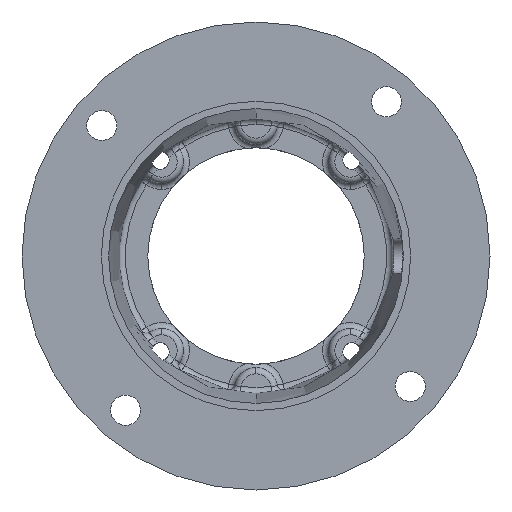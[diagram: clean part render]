
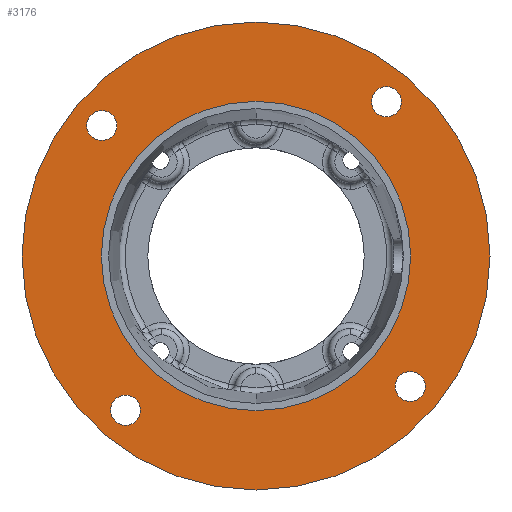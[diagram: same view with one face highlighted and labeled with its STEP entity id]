
A CAD part, front view. The second image highlights one B-rep face of the part: STEP entity #3176.
In plain terms, the highlighted planar face has unit normal (0, -1, 0).
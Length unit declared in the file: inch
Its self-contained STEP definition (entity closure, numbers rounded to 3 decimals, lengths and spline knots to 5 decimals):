
#32 = EDGE_LOOP ( 'NONE', ( #3851, #2686 ) ) ;
#108 = VERTEX_POINT ( 'NONE', #631 ) ;
#154 = CARTESIAN_POINT ( 'NONE',  ( 1.89861, 0.189, 2.4635 ) ) ;
#212 = CARTESIAN_POINT ( 'NONE',  ( 0., 0.189, 0. ) ) ;
#281 = EDGE_CURVE ( 'NONE', #4471, #3189, #5895, .T. ) ;
#403 = AXIS2_PLACEMENT_3D ( 'NONE', #6517, #2933, #7135 ) ;
#457 = AXIS2_PLACEMENT_3D ( 'NONE', #2859, #7059, #3448 ) ;
#527 = CARTESIAN_POINT ( 'NONE',  ( 0., 0.189, 2.2505 ) ) ;
#631 = CARTESIAN_POINT ( 'NONE',  ( -1.89861, 0.189, -2.4635 ) ) ;
#639 = CARTESIAN_POINT ( 'NONE',  ( 1.89861, 0.189, 2.026 ) ) ;
#722 = CIRCLE ( 'NONE', #2219, 0.21875 ) ;
#745 = DIRECTION ( 'NONE',  ( 0., -1., 0. ) ) ;
#764 = EDGE_CURVE ( 'NONE', #1095, #108, #7209, .T. ) ;
#825 = DIRECTION ( 'NONE',  ( 0., -1., 0. ) ) ;
#1052 = ORIENTED_EDGE ( 'NONE', *, *, #4712, .F. ) ;
#1095 = VERTEX_POINT ( 'NONE', #5407 ) ;
#1132 = AXIS2_PLACEMENT_3D ( 'NONE', #1982, #6172, #2589 ) ;
#1138 = EDGE_LOOP ( 'NONE', ( #3372, #7671 ) ) ;
#1238 = CARTESIAN_POINT ( 'NONE',  ( -2.24475, 0.189, 1.67986 ) ) ;
#1311 = EDGE_CURVE ( 'NONE', #1711, #5734, #722, .T. ) ;
#1411 = ORIENTED_EDGE ( 'NONE', *, *, #5629, .F. ) ;
#1427 = CARTESIAN_POINT ( 'NONE',  ( 2.24475, 0.189, -1.67986 ) ) ;
#1507 = VERTEX_POINT ( 'NONE', #639 ) ;
#1584 = CARTESIAN_POINT ( 'NONE',  ( -1.89861, 0.189, -2.24475 ) ) ;
#1631 = CIRCLE ( 'NONE', #403, 0.21875 ) ;
#1635 = CIRCLE ( 'NONE', #4992, 3.405 ) ;
#1711 = VERTEX_POINT ( 'NONE', #2134 ) ;
#1782 = CARTESIAN_POINT ( 'NONE',  ( 0., 0.189, 3.405 ) ) ;
#1875 = DIRECTION ( 'NONE',  ( 0., -1., 0. ) ) ;
#1933 = ORIENTED_EDGE ( 'NONE', *, *, #764, .F. ) ;
#1959 = DIRECTION ( 'NONE',  ( 0., -1., 0. ) ) ;
#1982 = CARTESIAN_POINT ( 'NONE',  ( 2.24475, 0.189, -1.89861 ) ) ;
#1996 = EDGE_LOOP ( 'NONE', ( #5848, #4154 ) ) ;
#2134 = CARTESIAN_POINT ( 'NONE',  ( -2.24475, 0.189, 2.11736 ) ) ;
#2183 = DIRECTION ( 'NONE',  ( 0., 0., -1. ) ) ;
#2219 = AXIS2_PLACEMENT_3D ( 'NONE', #3080, #7295, #3677 ) ;
#2351 = EDGE_CURVE ( 'NONE', #1507, #7196, #1631, .T. ) ;
#2363 = FACE_OUTER_BOUND ( 'NONE', #32, .T. ) ;
#2364 = CARTESIAN_POINT ( 'NONE',  ( 0., 0.189, 0. ) ) ;
#2460 = CIRCLE ( 'NONE', #7674, 0.21875 ) ;
#2552 = EDGE_CURVE ( 'NONE', #108, #1095, #2460, .T. ) ;
#2589 = DIRECTION ( 'NONE',  ( 0., 0., -1. ) ) ;
#2591 = CARTESIAN_POINT ( 'NONE',  ( 2.24475, 0.189, -2.11736 ) ) ;
#2605 = CIRCLE ( 'NONE', #2822, 2.2505 ) ;
#2686 = ORIENTED_EDGE ( 'NONE', *, *, #6725, .T. ) ;
#2798 = EDGE_LOOP ( 'NONE', ( #1411, #1052 ) ) ;
#2822 = AXIS2_PLACEMENT_3D ( 'NONE', #7027, #3417, #7641 ) ;
#2859 = CARTESIAN_POINT ( 'NONE',  ( 0., 0.189, 0. ) ) ;
#2878 = DIRECTION ( 'NONE',  ( 0., -1., 0. ) ) ;
#2933 = DIRECTION ( 'NONE',  ( 0., -1., 0. ) ) ;
#2967 = DIRECTION ( 'NONE',  ( 0., 0., -1. ) ) ;
#3075 = CIRCLE ( 'NONE', #4294, 0.21875 ) ;
#3080 = CARTESIAN_POINT ( 'NONE',  ( -2.24475, 0.189, 1.89861 ) ) ;
#3176 = ADVANCED_FACE ( 'NONE', ( #4162, #7362, #7162, #5558, #3965, #2363 ), #3815, .T. ) ;
#3189 = VERTEX_POINT ( 'NONE', #1427 ) ;
#3226 = CIRCLE ( 'NONE', #457, 3.405 ) ;
#3318 = AXIS2_PLACEMENT_3D ( 'NONE', #1584, #5791, #2183 ) ;
#3332 = CARTESIAN_POINT ( 'NONE',  ( 2.24475, 0.189, -1.89861 ) ) ;
#3372 = ORIENTED_EDGE ( 'NONE', *, *, #281, .F. ) ;
#3417 = DIRECTION ( 'NONE',  ( 0., -1., 0. ) ) ;
#3433 = CIRCLE ( 'NONE', #5591, 2.2505 ) ;
#3448 = DIRECTION ( 'NONE',  ( 0., 0., -1. ) ) ;
#3677 = DIRECTION ( 'NONE',  ( 0., 0., -1. ) ) ;
#3717 = AXIS2_PLACEMENT_3D ( 'NONE', #212, #825, #5022 ) ;
#3805 = EDGE_LOOP ( 'NONE', ( #6896, #5625 ) ) ;
#3815 = PLANE ( 'NONE',  #3717 ) ;
#3851 = ORIENTED_EDGE ( 'NONE', *, *, #6036, .T. ) ;
#3944 = DIRECTION ( 'NONE',  ( 0., 0., -1. ) ) ;
#3965 = FACE_BOUND ( 'NONE', #2798, .T. ) ;
#4154 = ORIENTED_EDGE ( 'NONE', *, *, #1311, .F. ) ;
#4162 = FACE_BOUND ( 'NONE', #3805, .T. ) ;
#4294 = AXIS2_PLACEMENT_3D ( 'NONE', #5472, #1875, #6077 ) ;
#4352 = CARTESIAN_POINT ( 'NONE',  ( 0., 0.189, 0. ) ) ;
#4471 = VERTEX_POINT ( 'NONE', #2591 ) ;
#4558 = CIRCLE ( 'NONE', #1132, 0.21875 ) ;
#4614 = CARTESIAN_POINT ( 'NONE',  ( 0., 0.189, -3.405 ) ) ;
#4712 = EDGE_CURVE ( 'NONE', #6992, #5108, #2605, .T. ) ;
#4833 = AXIS2_PLACEMENT_3D ( 'NONE', #3332, #7551, #3944 ) ;
#4946 = DIRECTION ( 'NONE',  ( 0., 0., -1. ) ) ;
#4957 = CARTESIAN_POINT ( 'NONE',  ( 0., 0.189, -2.2505 ) ) ;
#4992 = AXIS2_PLACEMENT_3D ( 'NONE', #4352, #745, #4946 ) ;
#5014 = EDGE_CURVE ( 'NONE', #5734, #1711, #3075, .T. ) ;
#5022 = DIRECTION ( 'NONE',  ( 0., 0., -1. ) ) ;
#5108 = VERTEX_POINT ( 'NONE', #4957 ) ;
#5304 = VERTEX_POINT ( 'NONE', #4614 ) ;
#5407 = CARTESIAN_POINT ( 'NONE',  ( -1.89861, 0.189, -2.026 ) ) ;
#5472 = CARTESIAN_POINT ( 'NONE',  ( -2.24475, 0.189, 1.89861 ) ) ;
#5556 = CARTESIAN_POINT ( 'NONE',  ( -1.89861, 0.189, -2.24475 ) ) ;
#5558 = FACE_BOUND ( 'NONE', #5826, .T. ) ;
#5591 = AXIS2_PLACEMENT_3D ( 'NONE', #2364, #6554, #2967 ) ;
#5625 = ORIENTED_EDGE ( 'NONE', *, *, #6617, .F. ) ;
#5629 = EDGE_CURVE ( 'NONE', #5108, #6992, #3433, .T. ) ;
#5734 = VERTEX_POINT ( 'NONE', #1238 ) ;
#5791 = DIRECTION ( 'NONE',  ( 0., -1., 0. ) ) ;
#5826 = EDGE_LOOP ( 'NONE', ( #6902, #1933 ) ) ;
#5848 = ORIENTED_EDGE ( 'NONE', *, *, #5014, .F. ) ;
#5895 = CIRCLE ( 'NONE', #4833, 0.21875 ) ;
#6036 = EDGE_CURVE ( 'NONE', #5304, #7054, #3226, .T. ) ;
#6077 = DIRECTION ( 'NONE',  ( 0., 0., -1. ) ) ;
#6150 = DIRECTION ( 'NONE',  ( 0., 0., -1. ) ) ;
#6172 = DIRECTION ( 'NONE',  ( 0., -1., 0. ) ) ;
#6329 = EDGE_CURVE ( 'NONE', #3189, #4471, #4558, .T. ) ;
#6465 = CARTESIAN_POINT ( 'NONE',  ( 1.89861, 0.189, 2.24475 ) ) ;
#6517 = CARTESIAN_POINT ( 'NONE',  ( 1.89861, 0.189, 2.24475 ) ) ;
#6554 = DIRECTION ( 'NONE',  ( 0., -1., 0. ) ) ;
#6617 = EDGE_CURVE ( 'NONE', #7196, #1507, #6978, .T. ) ;
#6725 = EDGE_CURVE ( 'NONE', #7054, #5304, #1635, .T. ) ;
#6744 = AXIS2_PLACEMENT_3D ( 'NONE', #6465, #2878, #7071 ) ;
#6896 = ORIENTED_EDGE ( 'NONE', *, *, #2351, .F. ) ;
#6902 = ORIENTED_EDGE ( 'NONE', *, *, #2552, .F. ) ;
#6978 = CIRCLE ( 'NONE', #6744, 0.21875 ) ;
#6992 = VERTEX_POINT ( 'NONE', #527 ) ;
#7027 = CARTESIAN_POINT ( 'NONE',  ( 0., 0.189, 0. ) ) ;
#7054 = VERTEX_POINT ( 'NONE', #1782 ) ;
#7059 = DIRECTION ( 'NONE',  ( 0., -1., 0. ) ) ;
#7071 = DIRECTION ( 'NONE',  ( 0., 0., -1. ) ) ;
#7135 = DIRECTION ( 'NONE',  ( 0., 0., -1. ) ) ;
#7162 = FACE_BOUND ( 'NONE', #1138, .T. ) ;
#7196 = VERTEX_POINT ( 'NONE', #154 ) ;
#7209 = CIRCLE ( 'NONE', #3318, 0.21875 ) ;
#7295 = DIRECTION ( 'NONE',  ( 0., -1., 0. ) ) ;
#7362 = FACE_BOUND ( 'NONE', #1996, .T. ) ;
#7551 = DIRECTION ( 'NONE',  ( 0., -1., 0. ) ) ;
#7641 = DIRECTION ( 'NONE',  ( 0., 0., -1. ) ) ;
#7671 = ORIENTED_EDGE ( 'NONE', *, *, #6329, .F. ) ;
#7674 = AXIS2_PLACEMENT_3D ( 'NONE', #5556, #1959, #6150 ) ;
